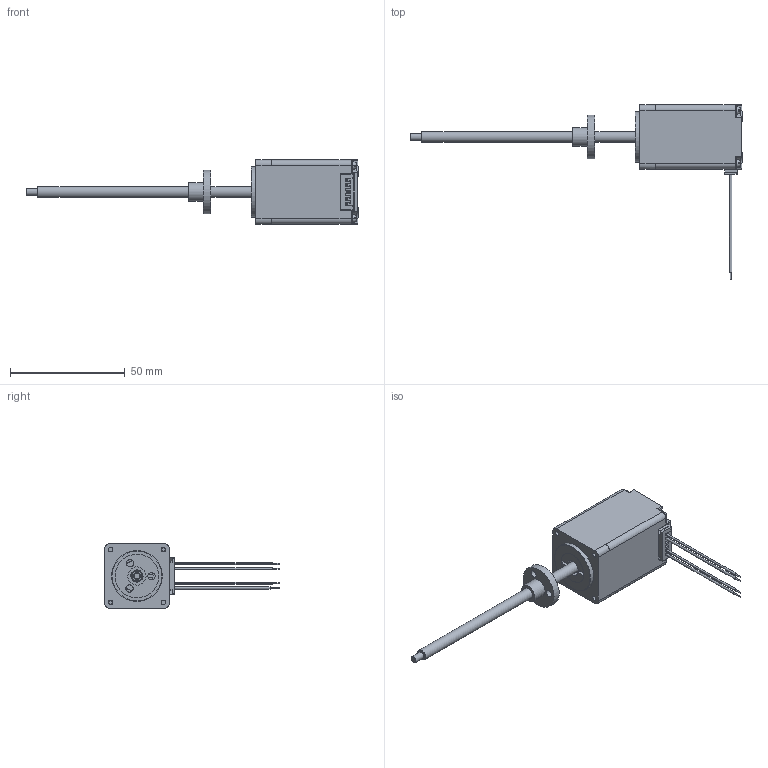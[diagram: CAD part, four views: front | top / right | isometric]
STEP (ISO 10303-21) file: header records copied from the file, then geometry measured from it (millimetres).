
FILE_DESCRIPTION( ('This file contains a STEP AP42 implementation' ,'as created by ZW3D STEP Interface translator.' ,'') ,'2;1' );
FILE_NAME( '28EC4X-XX-XXX.stp' ,'251231.16 311', (''), ('ZWCAD Software Co.'), 'Version 1.0', 'ZW3D to STEP translator', '' );
FILE_SCHEMA(('AUTOMOTIVE_DESIGN { 1 0 10303 214 1 1 1 1 }'));
Length unit declared in the file: millimetre
Products named in the file (1): 0
Bounding box: 144.5 x 75.9 x 28 mm (x, y, z)
Volume: 17675.1 mm3; surface area: 19730.1 mm2
Topology: 3 solids, 5 shells, 652 faces, 1689 edges, 1079 vertices
Faces by surface type: plane 432, cylinder 167, torus 24, bspline 13, cone 8, sphere 8
Full cylindrical faces by diameter (mm): 0.5 x8, 1 x2, 1.4 x8, 2.05 x4, 2.8 x4, 3 x5, 3.18 x3, 4 x2, 4.2 x2, 4.76 x2, 5.3 x2, 6 x2, 7.11 x1, 7.94 x1, 8.5 x1, 10.5 x1, 14 x3, 16.9 x2, 19.05 x1, 22 x1
Entity records: 20814 total; most frequent: CARTESIAN_POINT 3839, DIRECTION 3425, ORIENTED_EDGE 3370, EDGE_CURVE 1689, AXIS2_PLACEMENT_3D 1161, VECTOR 1103, LINE 1103, VERTEX_POINT 1079
